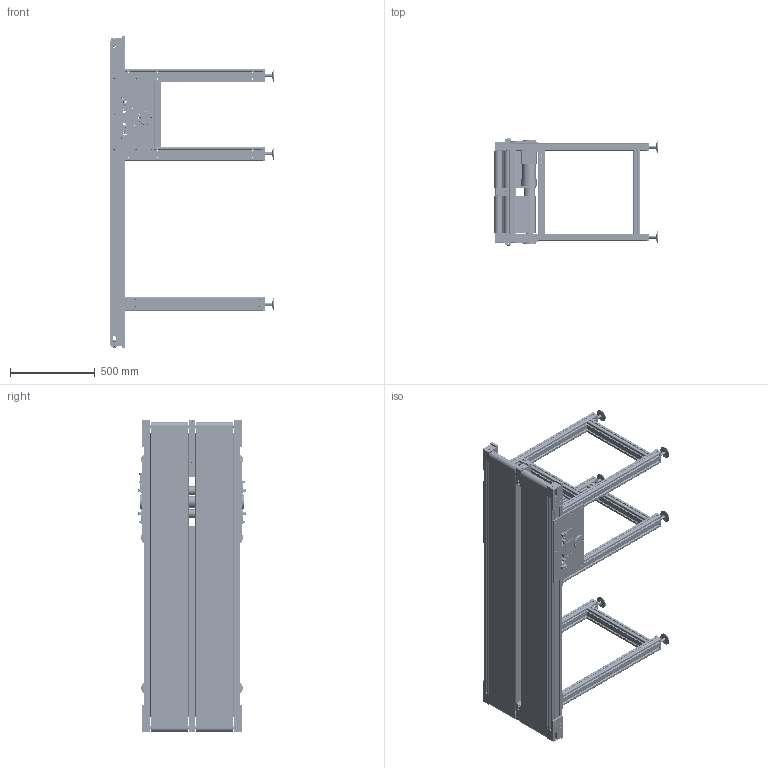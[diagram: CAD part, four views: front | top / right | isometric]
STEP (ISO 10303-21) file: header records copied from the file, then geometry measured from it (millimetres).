
FILE_DESCRIPTION(/* description */ (''),/* implementation_level */ '2;1');
FILE_NAME(/* name */ 'beltconveyor_a137_w480_l1800.stp',/* time_stamp */ '2025-01-16T00:07:48+08:00',/* author */ (''),/* organization */ (''),/* preprocessor_version */ 'ST-DEVELOPER v16.7',/* originating_system */ 'SIEMENS PLM Software NX 12.0',/* authorisation */ '');
FILE_SCHEMA (('AUTOMOTIVE_DESIGN { 1 0 10303 214 3 1 1 1 }'));
Products named in the file (45): 90W小电机; 电机带轮; 电机板; 从动滚筒260746; 从动轴1; deep groove ball bearings gb_Rolling bearings 6004 GB 276-94; 腿架型材2; 腿架型材1; 动力架型材1; 腿架固定板; 动力架型材3; 动力架型材2; 脚杯固定板; 脚杯; 动力架型材4; deep groove ball bearings gb_Rolling bearings 6203 GB 276-94; 从动滚筒; 从动轴; 驱动带轮; 轴承座端盖; 驱动板B; 涨紧螺栓; 托板2; self-aligning ball bearings gb_Rolling bearings 1204 GB 281-94; 轴承座; 中间型材1; 驱动板A; 驱动滚筒; 中间型材2; 端部固定块; 皮带; 导轨1; 电机可视板; 从动滚筒可视板; 托板1; 中间固定块; 驱动滚筒可是板; 涨紧座; 端部固定块1; 电机机构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
Assembly tree (91 placements, depth 3):
  beltconveyor_a137_w480_l1800
    端部固定块1  x2
    涨紧座  x4
    驱动滚筒可是板  x2
    中间固定块  x2
    托板1
    从动滚筒可视板  x4
    电机可视板
    从动滚筒1  x4
      从动轴
      从动滚筒
      deep groove ball bearings gb_Rolling bearings 6203 GB 276-94
    动力架
      动力架型材4
      脚杯  x4
      脚杯固定板  x4
      动力架型材2  x4
      动力架型材3  x2
      腿架固定板  x4
      动力架型材1  x4
    导轨1  x2
    皮带  x2
    端部固定块  x2
    中间型材2
    驱动滚筒
    腿架
      脚杯  x2
      脚杯固定板  x2
      腿架型材1  x2
      腿架型材2  x2
      腿架固定板  x2
    从动滚筒2  x2
      deep groove ball bearings gb_Rolling bearings 6004 GB 276-94
      从动轴1
      从动滚筒260746
    驱动板A
    中间型材1
    轴承座  x2
    self-aligning ball bearings gb_Rolling bearings 1204 GB 281-94  x2
    托板2
    涨紧螺栓
    驱动板B
    轴承座端盖  x2
    驱动带轮
    电机机构
      电机板
      电机带轮
      90W小电机
Bounding box: 961.2 x 630 x 1838 mm (x, y, z)
Volume: 26738062.7 mm3; surface area: 18138529.2 mm2
Topology: 136 solids, 137 shells, 11003 faces, 34859 edges, 23026 vertices
Faces by surface type: cylinder 4593, plane 4257, torus 1008, sphere 596, extrusion 369, cone 180
Entity records: 186332 total; most frequent: CARTESIAN_POINT 51512, ORIENTED_EDGE 29224, DIRECTION 26435, EDGE_CURVE 14612, VERTEX_POINT 9695, AXIS2_PLACEMENT_3D 9161, VECTOR 8113, LINE 7744
